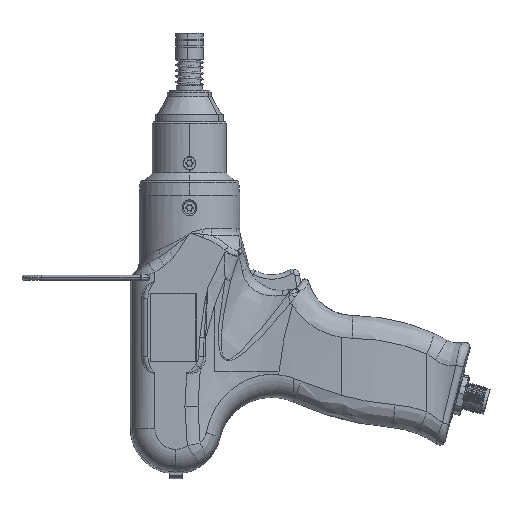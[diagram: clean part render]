
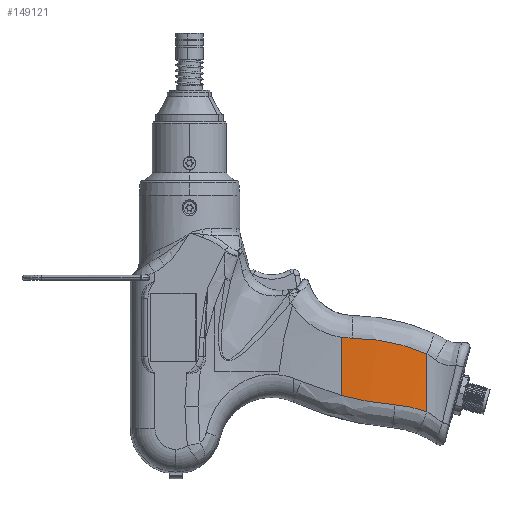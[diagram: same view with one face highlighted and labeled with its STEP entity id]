
A CAD part, left-side view. The second image highlights one B-rep face of the part: STEP entity #149121.
In plain terms, the highlighted cylindrical face has radius 275.277 mm (diameter 550.554 mm), a partial arc.
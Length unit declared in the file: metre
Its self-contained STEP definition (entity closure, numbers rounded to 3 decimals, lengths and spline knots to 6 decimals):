
#1029 = LINE ( 'NONE', #92827, #152828 ) ;
#1574 = CARTESIAN_POINT ( 'NONE',  ( -0.015117, -0.074036, -0.053668 ) ) ;
#1821 = ORIENTED_EDGE ( 'NONE', *, *, #60076, .T. ) ;
#3503 = CARTESIAN_POINT ( 'NONE',  ( -0.0152, -0.067218, -0.051998 ) ) ;
#5416 = CARTESIAN_POINT ( 'NONE',  ( -0.014779, -0.082944, -0.055334 ) ) ;
#5793 = CARTESIAN_POINT ( 'NONE',  ( -0.015158, -0.072027, -0.026714 ) ) ;
#6080 = CARTESIAN_POINT ( 'NONE',  ( -0.0139, -0.093981, -0.056493 ) ) ;
#8342 = EDGE_CURVE ( 'NONE', #171135, #185779, #22200, .T. ) ;
#14497 = CARTESIAN_POINT ( 'NONE',  ( -0.015186, -0.070413, -0.026704 ) ) ;
#17864 = FACE_OUTER_BOUND ( 'NONE', #50036, .T. ) ;
#19882 = CARTESIAN_POINT ( 'NONE',  ( -0.015133, -0.073483, -0.026725 ) ) ;
#20507 = CARTESIAN_POINT ( 'NONE',  ( -0.014745, -0.083069, -0.027496 ) ) ;
#21774 = CARTESIAN_POINT ( 'NONE',  ( -0.014957, -0.078818, -0.027023 ) ) ;
#22200 = B_SPLINE_CURVE_WITH_KNOTS ( 'NONE', 3,
 ( #3503, #150667, #165443, #1574, #89619, #139680, #94050, #167926, #138413, #95327, #5416, #124923, #49001 ),
 .UNSPECIFIED., .F., .F.,
 ( 4, 2, 1, 1, 1, 2, 2, 4 ),
 ( 0.437433, 0.578075, 0.648396, 0.683556, 0.701136, 0.709927, 0.718717, 1. ),
 .UNSPECIFIED. ) ;
#22702 = CARTESIAN_POINT ( 'NONE',  ( -0.013193, -0.100482, -0.057783 ) ) ;
#34650 = CARTESIAN_POINT ( 'NONE',  ( -0.014447, -0.087613, -0.028235 ) ) ;
#35282 = CARTESIAN_POINT ( 'NONE',  ( -0.013183, -0.10049, -0.031797 ) ) ;
#38616 = VERTEX_POINT ( 'NONE', #58698 ) ;
#39331 = CARTESIAN_POINT ( 'NONE',  ( -0.012586, -0.105063, -0.059292 ) ) ;
#48758 = CARTESIAN_POINT ( 'NONE',  ( -0.014282, -0.089688, -0.028673 ) ) ;
#49001 = CARTESIAN_POINT ( 'NONE',  ( -0.014173, -0.090975, -0.056184 ) ) ;
#49042 = CARTESIAN_POINT ( 'NONE',  ( -0.013573, -0.097104, -0.057046 ) ) ;
#50036 = EDGE_LOOP ( 'NONE', ( #1821, #144381, #78270, #76907, #131313, #64116 ) ) ;
#50651 = CARTESIAN_POINT ( 'NONE',  ( -0.014309, -0.089346, -0.028599 ) ) ;
#51580 = CARTESIAN_POINT ( 'NONE',  ( -0.014068, -0.092181, -0.056284 ) ) ;
#52301 = CYLINDRICAL_SURFACE ( 'NONE', #129965, 0.275277 ) ;
#54096 = CARTESIAN_POINT ( 'NONE',  ( -0.013474, -0.097994, -0.057234 ) ) ;
#58165 = CARTESIAN_POINT ( 'NONE',  ( -0.0152, -0.06881, -0.026573 ) ) ;
#58698 = CARTESIAN_POINT ( 'NONE',  ( -0.0152, -0.067218, -0.026322 ) ) ;
#60076 = EDGE_CURVE ( 'NONE', #137636, #38616, #149023, .T. ) ;
#60648 = EDGE_CURVE ( 'NONE', #38616, #171135, #69972, .T. ) ;
#63077 = CARTESIAN_POINT ( 'NONE',  ( -0.0152, -0.067218, -0.026124 ) ) ;
#63896 = CARTESIAN_POINT ( 'NONE',  ( -0.013524, -0.097549, -0.057139 ) ) ;
#63953 = EDGE_CURVE ( 'NONE', #185779, #97705, #148802, .T. ) ;
#64116 = ORIENTED_EDGE ( 'NONE', *, *, #142057, .T. ) ;
#64232 = CARTESIAN_POINT ( 'NONE',  ( -0.014137, -0.091404, -0.029061 ) ) ;
#65506 = CARTESIAN_POINT ( 'NONE',  ( -0.015025, -0.077035, -0.026893 ) ) ;
#66144 = CARTESIAN_POINT ( 'NONE',  ( -0.013714, -0.095814, -0.030241 ) ) ;
#69972 = LINE ( 'NONE', #63077, #120564 ) ;
#72996 = CARTESIAN_POINT ( 'NONE',  ( -0.0152, -0.067218, -0.026322 ) ) ;
#76598 = DIRECTION ( 'NONE',  ( 0., 0., -1. ) ) ;
#76907 = ORIENTED_EDGE ( 'NONE', *, *, #63953, .T. ) ;
#78270 = ORIENTED_EDGE ( 'NONE', *, *, #8342, .T. ) ;
#78408 = CARTESIAN_POINT ( 'NONE',  ( -0.01392, -0.093791, -0.029656 ) ) ;
#80311 = CARTESIAN_POINT ( 'NONE',  ( -0.012937, -0.102468, -0.032535 ) ) ;
#80611 = DIRECTION ( 'NONE',  ( 0., 0., 1. ) ) ;
#80951 = CARTESIAN_POINT ( 'NONE',  ( -0.015037, -0.076679, -0.026871 ) ) ;
#89619 = CARTESIAN_POINT ( 'NONE',  ( -0.015078, -0.075507, -0.05398 ) ) ;
#92827 = CARTESIAN_POINT ( 'NONE',  ( -0.012586, -0.105063, -0.026124 ) ) ;
#93162 = CARTESIAN_POINT ( 'NONE',  ( -0.014224, -0.090375, -0.028826 ) ) ;
#93792 = CARTESIAN_POINT ( 'NONE',  ( -0.015044, -0.076499, -0.02686 ) ) ;
#94050 = CARTESIAN_POINT ( 'NONE',  ( -0.014985, -0.078091, -0.054474 ) ) ;
#94097 = CARTESIAN_POINT ( 'NONE',  ( -0.014173, -0.090975, -0.056184 ) ) ;
#95095 = CARTESIAN_POINT ( 'NONE',  ( -0.013531, -0.097487, -0.030771 ) ) ;
#95327 = CARTESIAN_POINT ( 'NONE',  ( -0.014955, -0.078829, -0.054607 ) ) ;
#95869 = B_SPLINE_CURVE_WITH_KNOTS ( 'NONE', 3,
 ( #108584, #168940, #80311, #35282, #109866, #136927, #124033, #95095, #66144, #78408, #64232, #93162, #48758, #50651, #34650, #107303, #20507, #167692, #122754, #151673, #183762, #153604, #21774, #167063, #65506, #80951, #93792, #107945, #19882, #5793 ),
 .UNSPECIFIED., .F., .F.,
 ( 4, 2, 1, 2, 2, 1, 1, 2, 2, 1, 1, 1, 2, 2, 1, 1, 2, 2, 4 ),
 ( 0., 0.125, 0.1875, 0.21875, 0.25, 0.375, 0.4375, 0.46875, 0.5, 0.625, 0.6875, 0.71875, 0.734375, 0.75, 0.8125, 0.84375, 0.859375, 0.875, 1. ),
 .UNSPECIFIED. ) ;
#97705 = VERTEX_POINT ( 'NONE', #109781 ) ;
#98485 = CARTESIAN_POINT ( 'NONE',  ( -0.0152, -0.067218, -0.051998 ) ) ;
#107303 = CARTESIAN_POINT ( 'NONE',  ( -0.014597, -0.085523, -0.027852 ) ) ;
#107945 = CARTESIAN_POINT ( 'NONE',  ( -0.015096, -0.074915, -0.02677 ) ) ;
#108225 = CARTESIAN_POINT ( 'NONE',  ( -0.013685, -0.096066, -0.056844 ) ) ;
#108584 = CARTESIAN_POINT ( 'NONE',  ( -0.012586, -0.105063, -0.033619 ) ) ;
#109781 = CARTESIAN_POINT ( 'NONE',  ( -0.012586, -0.105063, -0.059292 ) ) ;
#109866 = CARTESIAN_POINT ( 'NONE',  ( -0.013302, -0.099496, -0.03144 ) ) ;
#120564 = VECTOR ( 'NONE', #76598, 1. ) ;
#122754 = CARTESIAN_POINT ( 'NONE',  ( -0.014839, -0.081308, -0.027279 ) ) ;
#123046 = CARTESIAN_POINT ( 'NONE',  ( -0.013491, -0.097844, -0.057201 ) ) ;
#124033 = CARTESIAN_POINT ( 'NONE',  ( -0.013493, -0.097825, -0.03088 ) ) ;
#124923 = CARTESIAN_POINT ( 'NONE',  ( -0.014521, -0.086952, -0.055852 ) ) ;
#129965 = AXIS2_PLACEMENT_3D ( 'NONE', #131371, #140390, #155761 ) ;
#131313 = ORIENTED_EDGE ( 'NONE', *, *, #186473, .T. ) ;
#131371 = CARTESIAN_POINT ( 'NONE',  ( 0.260077, -0.067218, -0.026124 ) ) ;
#136927 = CARTESIAN_POINT ( 'NONE',  ( -0.013418, -0.098494, -0.031101 ) ) ;
#137636 = VERTEX_POINT ( 'NONE', #177674 ) ;
#138413 = CARTESIAN_POINT ( 'NONE',  ( -0.01496, -0.078707, -0.054586 ) ) ;
#139680 = CARTESIAN_POINT ( 'NONE',  ( -0.015019, -0.077228, -0.054314 ) ) ;
#140390 = DIRECTION ( 'NONE',  ( 0., 0., -1. ) ) ;
#142057 = EDGE_CURVE ( 'NONE', #155537, #137636, #95869, .T. ) ;
#144381 = ORIENTED_EDGE ( 'NONE', *, *, #60648, .T. ) ;
#145672 = CARTESIAN_POINT ( 'NONE',  ( -0.015158, -0.072027, -0.026714 ) ) ;
#148802 = B_SPLINE_CURVE_WITH_KNOTS ( 'NONE', 3,
 ( #94097, #51580, #6080, #108225, #49042, #63896, #123046, #54096, #22702, #171762, #39331 ),
 .UNSPECIFIED., .F., .F.,
 ( 4, 1, 1, 1, 2, 2, 4 ),
 ( 0., 0.25, 0.375, 0.4375, 0.46875, 0.5, 1. ),
 .UNSPECIFIED. ) ;
#149023 = B_SPLINE_CURVE_WITH_KNOTS ( 'NONE', 3,
 ( #145672, #14497, #58165, #72996 ),
 .UNSPECIFIED., .F., .F.,
 ( 4, 4 ),
 ( 0., 0.152033 ),
 .UNSPECIFIED. ) ;
#149121 = ADVANCED_FACE ( 'NONE', ( #17864 ), #52301, .T. ) ;
#150667 = CARTESIAN_POINT ( 'NONE',  ( -0.0152, -0.069155, -0.052526 ) ) ;
#151673 = CARTESIAN_POINT ( 'NONE',  ( -0.014857, -0.080956, -0.027239 ) ) ;
#152828 = VECTOR ( 'NONE', #80611, 1. ) ;
#153604 = CARTESIAN_POINT ( 'NONE',  ( -0.014909, -0.079889, -0.027124 ) ) ;
#154644 = CARTESIAN_POINT ( 'NONE',  ( -0.012586, -0.105063, -0.033619 ) ) ;
#155537 = VERTEX_POINT ( 'NONE', #154644 ) ;
#155761 = DIRECTION ( 'NONE',  ( -1., 0., 0. ) ) ;
#157435 = CARTESIAN_POINT ( 'NONE',  ( -0.014173, -0.090975, -0.056184 ) ) ;
#165443 = CARTESIAN_POINT ( 'NONE',  ( -0.01518, -0.071102, -0.05301 ) ) ;
#167063 = CARTESIAN_POINT ( 'NONE',  ( -0.015006, -0.07757, -0.026928 ) ) ;
#167692 = CARTESIAN_POINT ( 'NONE',  ( -0.014812, -0.081837, -0.02734 ) ) ;
#167926 = CARTESIAN_POINT ( 'NONE',  ( -0.01497, -0.07846, -0.054541 ) ) ;
#168940 = CARTESIAN_POINT ( 'NONE',  ( -0.012765, -0.103773, -0.033061 ) ) ;
#171135 = VERTEX_POINT ( 'NONE', #98485 ) ;
#171762 = CARTESIAN_POINT ( 'NONE',  ( -0.012902, -0.10279, -0.058459 ) ) ;
#177674 = CARTESIAN_POINT ( 'NONE',  ( -0.015158, -0.072027, -0.026714 ) ) ;
#183762 = CARTESIAN_POINT ( 'NONE',  ( -0.014866, -0.080781, -0.027219 ) ) ;
#185779 = VERTEX_POINT ( 'NONE', #157435 ) ;
#186473 = EDGE_CURVE ( 'NONE', #97705, #155537, #1029, .T. ) ;
